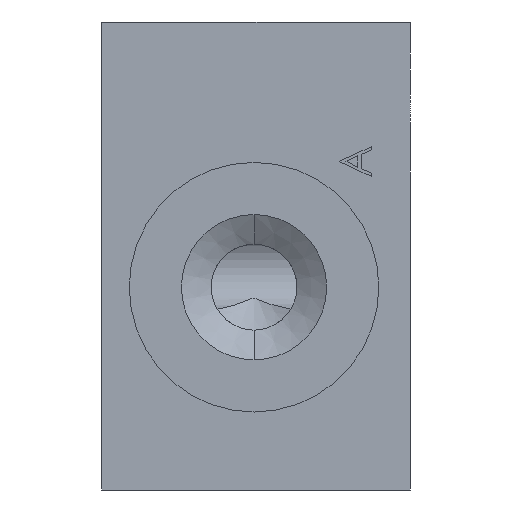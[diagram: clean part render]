
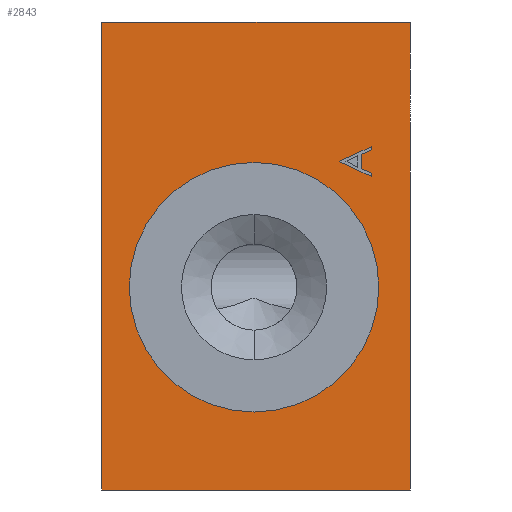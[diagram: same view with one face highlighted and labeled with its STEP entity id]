
A CAD part, left-side view. The second image highlights one B-rep face of the part: STEP entity #2843.
In plain terms, the highlighted planar face has unit normal (-1, 0, 0).
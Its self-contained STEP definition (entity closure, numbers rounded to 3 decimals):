
#45 = ORIENTED_EDGE ( 'NONE', *, *, #1218, .T. ) ;
#53 = VECTOR ( 'NONE', #213, 1000. ) ;
#90 = CARTESIAN_POINT ( 'NONE',  ( 0., -14.75, 14. ) ) ;
#153 = VERTEX_POINT ( 'NONE', #1705 ) ;
#157 = VECTOR ( 'NONE', #2661, 1000. ) ;
#210 = AXIS2_PLACEMENT_3D ( 'NONE', #1607, #3535, #1930 ) ;
#213 = DIRECTION ( 'NONE',  ( 0., -1., 0. ) ) ;
#321 = VECTOR ( 'NONE', #2505, 1000. ) ;
#366 = LINE ( 'NONE', #2475, #321 ) ;
#372 = CARTESIAN_POINT ( 'NONE',  ( 0., -13.468, 11.205 ) ) ;
#380 = ORIENTED_EDGE ( 'NONE', *, *, #1634, .T. ) ;
#385 = CARTESIAN_POINT ( 'NONE',  ( 0., -14.75, 10.205 ) ) ;
#411 = VECTOR ( 'NONE', #2546, 1000. ) ;
#415 = DIRECTION ( 'NONE',  ( 0., 1., 0. ) ) ;
#418 = LINE ( 'NONE', #2397, #411 ) ;
#493 = ORIENTED_EDGE ( 'NONE', *, *, #1356, .F. ) ;
#496 = DIRECTION ( 'NONE',  ( 0., 0., 1. ) ) ;
#501 = VECTOR ( 'NONE', #415, 1000. ) ;
#525 = ORIENTED_EDGE ( 'NONE', *, *, #1701, .T. ) ;
#561 = AXIS2_PLACEMENT_3D ( 'NONE', #1864, #841, #496 ) ;
#562 = ORIENTED_EDGE ( 'NONE', *, *, #984, .T. ) ;
#590 = VERTEX_POINT ( 'NONE', #2273 ) ;
#594 = FACE_BOUND ( 'NONE', #3361, .T. ) ;
#607 = LINE ( 'NONE', #2939, #501 ) ;
#686 = CARTESIAN_POINT ( 'NONE',  ( 0., 0.25, 12. ) ) ;
#707 = DIRECTION ( 'NONE',  ( 0., -0.903, -0.429 ) ) ;
#709 = VECTOR ( 'NONE', #2624, 1000. ) ;
#744 = VERTEX_POINT ( 'NONE', #2816 ) ;
#751 = ORIENTED_EDGE ( 'NONE', *, *, #1108, .F. ) ;
#765 = CIRCLE ( 'NONE', #210, 16. ) ;
#820 = VECTOR ( 'NONE', #707, 1000. ) ;
#841 = DIRECTION ( 'NONE',  ( -1., 0., 0. ) ) ;
#935 = LINE ( 'NONE', #372, #820 ) ;
#977 = VERTEX_POINT ( 'NONE', #2461 ) ;
#979 = EDGE_CURVE ( 'NONE', #153, #3338, #418, .T. ) ;
#984 = EDGE_CURVE ( 'NONE', #3138, #1422, #366, .T. ) ;
#998 = LINE ( 'NONE', #1733, #2554 ) ;
#1030 = VERTEX_POINT ( 'NONE', #686 ) ;
#1031 = DIRECTION ( 'NONE',  ( 0., -0.908, 0.419 ) ) ;
#1044 = ORIENTED_EDGE ( 'NONE', *, *, #1684, .T. ) ;
#1108 = EDGE_CURVE ( 'NONE', #977, #1030, #3034, .T. ) ;
#1174 = VERTEX_POINT ( 'NONE', #2978 ) ;
#1175 = VECTOR ( 'NONE', #3142, 1000. ) ;
#1218 = EDGE_CURVE ( 'NONE', #3280, #590, #2046, .T. ) ;
#1291 = ORIENTED_EDGE ( 'NONE', *, *, #1830, .F. ) ;
#1320 = EDGE_CURVE ( 'NONE', #1422, #3124, #998, .T. ) ;
#1354 = CARTESIAN_POINT ( 'NONE',  ( 0., -13.468, 13.018 ) ) ;
#1356 = EDGE_CURVE ( 'NONE', #1384, #3115, #3624, .T. ) ;
#1384 = VERTEX_POINT ( 'NONE', #2933 ) ;
#1414 = EDGE_CURVE ( 'NONE', #3115, #2250, #3259, .T. ) ;
#1422 = VERTEX_POINT ( 'NONE', #1598 ) ;
#1472 = DIRECTION ( 'NONE',  ( 0., 0., -1. ) ) ;
#1598 = CARTESIAN_POINT ( 'NONE',  ( 0., -10.75, 12.154 ) ) ;
#1602 = ORIENTED_EDGE ( 'NONE', *, *, #979, .T. ) ;
#1606 = CARTESIAN_POINT ( 'NONE',  ( 0., 19.75, -30. ) ) ;
#1607 = CARTESIAN_POINT ( 'NONE',  ( 0., 0.25, -4. ) ) ;
#1634 = EDGE_CURVE ( 'NONE', #3338, #1174, #3042, .T. ) ;
#1646 = CARTESIAN_POINT ( 'NONE',  ( 0., -14.75, 14. ) ) ;
#1653 = PLANE ( 'NONE',  #2606 ) ;
#1669 = EDGE_CURVE ( 'NONE', #1174, #3280, #935, .T. ) ;
#1674 = EDGE_CURVE ( 'NONE', #2250, #744, #1772, .T. ) ;
#1684 = EDGE_CURVE ( 'NONE', #590, #3138, #3821, .T. ) ;
#1701 = EDGE_CURVE ( 'NONE', #3124, #153, #2346, .T. ) ;
#1705 = CARTESIAN_POINT ( 'NONE',  ( 0., -14.75, 13.61 ) ) ;
#1713 = EDGE_CURVE ( 'NONE', #744, #1384, #607, .T. ) ;
#1715 = DIRECTION ( 'NONE',  ( -1., 0., 0. ) ) ;
#1733 = CARTESIAN_POINT ( 'NONE',  ( 0., -10.75, 12.154 ) ) ;
#1759 = CARTESIAN_POINT ( 'NONE',  ( 0., 19.75, 30. ) ) ;
#1772 = LINE ( 'NONE', #2888, #3171 ) ;
#1787 = DIRECTION ( 'NONE',  ( 0., 0., 1. ) ) ;
#1830 = EDGE_CURVE ( 'NONE', #1030, #977, #765, .T. ) ;
#1864 = CARTESIAN_POINT ( 'NONE',  ( 0., 0.25, -4. ) ) ;
#1930 = DIRECTION ( 'NONE',  ( 0., 0., 1. ) ) ;
#2027 = DIRECTION ( 'NONE',  ( 0., 0., 1. ) ) ;
#2046 = LINE ( 'NONE', #2107, #157 ) ;
#2107 = CARTESIAN_POINT ( 'NONE',  ( 0., -14.75, 10.597 ) ) ;
#2213 = VECTOR ( 'NONE', #1787, 1000. ) ;
#2250 = VERTEX_POINT ( 'NONE', #3147 ) ;
#2273 = CARTESIAN_POINT ( 'NONE',  ( 0., -14.75, 10.205 ) ) ;
#2278 = ORIENTED_EDGE ( 'NONE', *, *, #1414, .F. ) ;
#2334 = EDGE_LOOP ( 'NONE', ( #2502, #3219, #2278, #493 ) ) ;
#2346 = LINE ( 'NONE', #90, #3740 ) ;
#2397 = CARTESIAN_POINT ( 'NONE',  ( 0., -14.75, 13.61 ) ) ;
#2461 = CARTESIAN_POINT ( 'NONE',  ( 0., 0.25, -20. ) ) ;
#2465 = CARTESIAN_POINT ( 'NONE',  ( 0., -13.468, 13.018 ) ) ;
#2475 = CARTESIAN_POINT ( 'NONE',  ( 0., -10.75, 12.103 ) ) ;
#2492 = ORIENTED_EDGE ( 'NONE', *, *, #1320, .T. ) ;
#2502 = ORIENTED_EDGE ( 'NONE', *, *, #1713, .F. ) ;
#2505 = DIRECTION ( 'NONE',  ( 0., 0., 1. ) ) ;
#2546 = DIRECTION ( 'NONE',  ( 0., 0.908, -0.419 ) ) ;
#2554 = VECTOR ( 'NONE', #1031, 1000. ) ;
#2606 = AXIS2_PLACEMENT_3D ( 'NONE', #1606, #1715, #2027 ) ;
#2624 = DIRECTION ( 'NONE',  ( 0., 0.904, 0.429 ) ) ;
#2661 = DIRECTION ( 'NONE',  ( 0., 0., -1. ) ) ;
#2741 = CARTESIAN_POINT ( 'NONE',  ( 0., -19.75, 30. ) ) ;
#2806 = ORIENTED_EDGE ( 'NONE', *, *, #1669, .T. ) ;
#2816 = CARTESIAN_POINT ( 'NONE',  ( 0., -19.75, -30. ) ) ;
#2843 = ADVANCED_FACE ( 'NONE', ( #3241, #3074, #594 ), #1653, .T. ) ;
#2888 = CARTESIAN_POINT ( 'NONE',  ( 0., -19.75, 30. ) ) ;
#2933 = CARTESIAN_POINT ( 'NONE',  ( 0., 19.75, -30. ) ) ;
#2939 = CARTESIAN_POINT ( 'NONE',  ( 0., -19.75, -30. ) ) ;
#2978 = CARTESIAN_POINT ( 'NONE',  ( 0., -13.468, 11.205 ) ) ;
#3034 = CIRCLE ( 'NONE', #561, 16. ) ;
#3042 = LINE ( 'NONE', #1354, #1175 ) ;
#3074 = FACE_BOUND ( 'NONE', #3765, .T. ) ;
#3089 = CARTESIAN_POINT ( 'NONE',  ( 0., -10.75, 12.103 ) ) ;
#3102 = CARTESIAN_POINT ( 'NONE',  ( 0., -14.75, 10.597 ) ) ;
#3115 = VERTEX_POINT ( 'NONE', #1759 ) ;
#3124 = VERTEX_POINT ( 'NONE', #1646 ) ;
#3138 = VERTEX_POINT ( 'NONE', #3089 ) ;
#3142 = DIRECTION ( 'NONE',  ( 0., 0., -1. ) ) ;
#3147 = CARTESIAN_POINT ( 'NONE',  ( 0., -19.75, 30. ) ) ;
#3171 = VECTOR ( 'NONE', #3175, 1000. ) ;
#3175 = DIRECTION ( 'NONE',  ( 0., 0., -1. ) ) ;
#3219 = ORIENTED_EDGE ( 'NONE', *, *, #1674, .F. ) ;
#3241 = FACE_OUTER_BOUND ( 'NONE', #2334, .T. ) ;
#3259 = LINE ( 'NONE', #2741, #53 ) ;
#3280 = VERTEX_POINT ( 'NONE', #3102 ) ;
#3338 = VERTEX_POINT ( 'NONE', #2465 ) ;
#3361 = EDGE_LOOP ( 'NONE', ( #1044, #562, #2492, #525, #1602, #380, #2806, #45 ) ) ;
#3535 = DIRECTION ( 'NONE',  ( -1., 0., 0. ) ) ;
#3624 = LINE ( 'NONE', #3663, #2213 ) ;
#3663 = CARTESIAN_POINT ( 'NONE',  ( 0., 19.75, 30. ) ) ;
#3740 = VECTOR ( 'NONE', #1472, 1000. ) ;
#3765 = EDGE_LOOP ( 'NONE', ( #1291, #751 ) ) ;
#3821 = LINE ( 'NONE', #385, #709 ) ;
